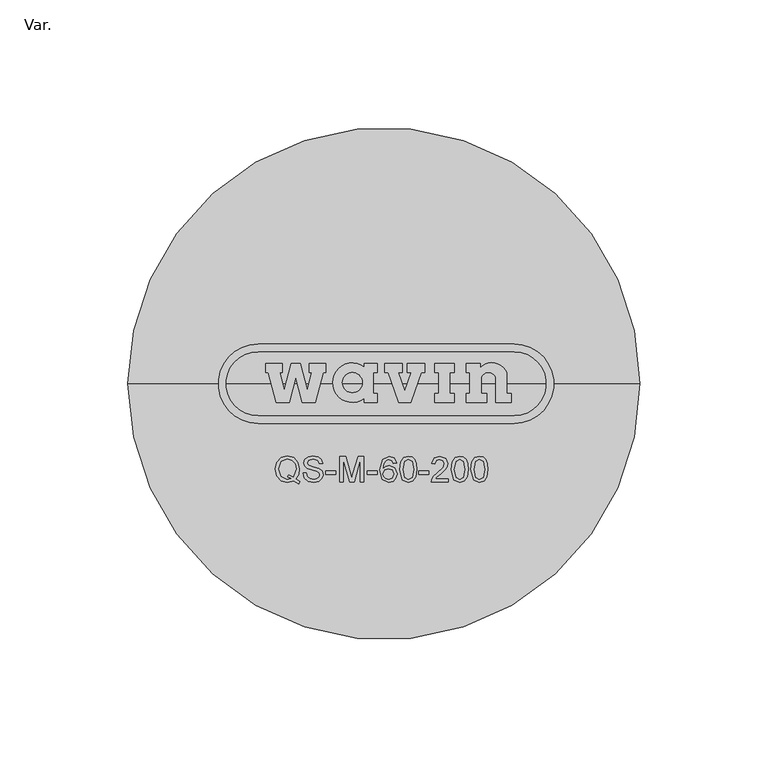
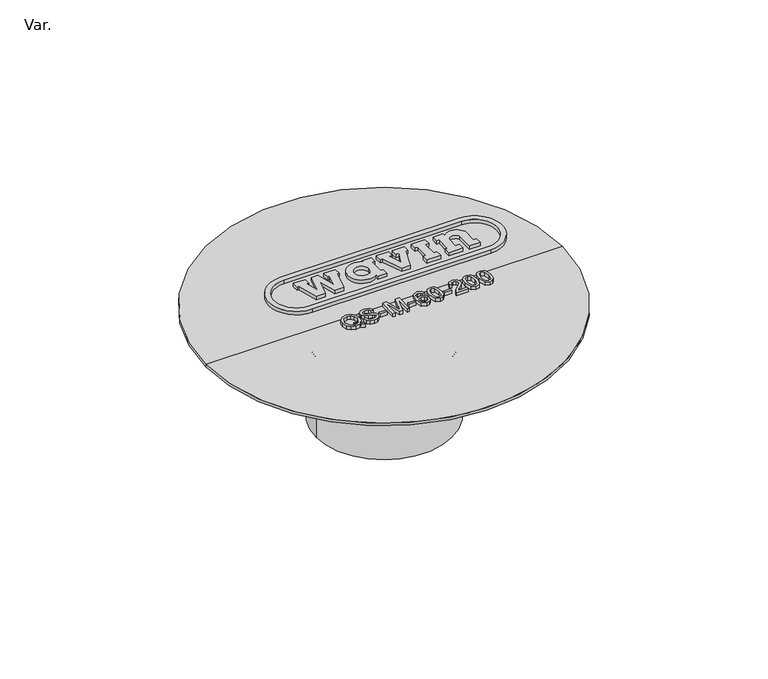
"""IFC4 building model written with IfcOpenShell, lengths in millimetres: sanitary terminal geometry, AmancoWavin_AquipamentosHidráulicos_QSBocaldeCaptação : Var.."""

from ifc_helpers import new_model, si_unit, point, frame, frame_2d, origin, place, context, project, spatial, polyline, circle_curve, ellipse_curve, trimmed, segment, composite_curve, outline, extrude, source, transform, mapped, element, save
from ifc_brep_helpers import plane_surface, cylinder_surface, revolved_surface, advanced_brep


def var_4e62a48e(model_context):
    return source(origin(), model_context, "Body", "SolidModel", [
        extrude(outline(composite_curve([segment(trimmed(circle_curve(frame_2d((50.8526232, 0.0)), 15.4893844), [point((50.8526232, 15.4893844))], [point((50.8526232, -15.4893844))], False, "CARTESIAN"), True, "CONTINUOUS"), segment(polyline([(50.8526232, -15.4893844), (-49.1473768, -15.4893844)]), True, "CONTINUOUS"), segment(trimmed(circle_curve(frame_2d((-49.1473768, 0.0)), 15.4893844), [point((-49.1473768, -15.4893844))], [point((-49.1473768, 15.4893844))], False, "CARTESIAN"), True, "CONTINUOUS"), segment(polyline([(-49.1473768, 15.4893844), (50.8526232, 15.4893844)]), True, "CONTINUOUS")], self_intersect=False), holes=[composite_curve([segment(polyline([(50.8526232, 12.4893844), (-49.1473768, 12.4893844)]), True, "CONTINUOUS"), segment(trimmed(circle_curve(frame_2d((-49.1473768, 0.0)), 12.4893844), [point((-49.1473768, 12.4893844))], [point((-49.1473768, -12.4893844))], True, "CARTESIAN"), True, "CONTINUOUS"), segment(polyline([(-49.1473768, -12.4893844), (50.8526232, -12.4893844)]), True, "CONTINUOUS"), segment(trimmed(circle_curve(frame_2d((50.8526232, 0.0)), 12.4893844), [point((50.8526232, -12.4893844))], [point((50.8526232, 12.4893844))], True, "CARTESIAN"), True, "CONTINUOUS")], self_intersect=False)]), frame((0.0, 0.0, 23.96875), z_axis=(0.0, 0.0, 1.0), x_axis=(1.0, 0.0, 0.0)), (0.0, 0.0, 1.0), 2.0),
        extrude(outline(polyline([(-39.7705089, 7.8291409), (-39.7705089, 4.3291409), (-40.7705089, 4.3291409), (-38.9632887, -2.4154967), (-36.2182463, 7.8291409), (-32.7477543, 7.8291409), (-30.0027119, -2.4154967), (-28.1954917, 4.3291409), (-29.1954917, 4.3291409), (-29.1954917, 7.8291409), (-22.6954917, 7.8291409), (-22.6954917, 4.3291409), (-23.6954917, 4.3291409), (-26.7948098, -7.2376719), (-31.8948098, -7.2376719), (-34.4830003, 2.4215864), (-37.0711907, -7.2376719), (-42.1711907, -7.2376719), (-45.2705089, 4.3291409), (-46.2705089, 4.3291409), (-46.2705089, 7.8291409), (-39.7705089, 7.8291409)])), frame((0.0, 0.0, 23.96875), z_axis=(0.0, 0.0, 1.0), x_axis=(1.0, 0.0, 0.0)), (0.0, 0.0, 1.0), 2.0),
        extrude(outline(composite_curve([segment(trimmed(circle_curve(frame_2d((-12.3300246, 0.4291409)), 7.7), [point((-7.6954917, -5.7199325))], [point((-7.6954917, 6.5782144))], False, "CARTESIAN"), True, "CONTINUOUS"), segment(polyline([(-7.6954917, 6.5782144), (-7.6954917, 7.8291409), (-2.6954917, 7.8291409), (-2.6954917, 4.3291409), (-4.1758448, 4.3291409), (-4.1758448, -3.7257164), (-2.6954917, -3.7257164), (-2.6954917, -7.2376719), (-7.6954917, -7.2376719), (-7.6954917, -5.7199325)]), True, "CONTINUOUS")], self_intersect=False), holes=[composite_curve([segment(trimmed(circle_curve(frame_2d((-12.3300246, 0.4291409)), 3.9), [point((-8.4300246, 0.4291409))], [point((-16.2300246, 0.4291409))], True, "CARTESIAN"), True, "CONTINUOUS"), segment(trimmed(circle_curve(frame_2d((-12.3300246, 0.4291409)), 3.9), [point((-16.2300246, 0.4291409))], [point((-8.4300246, 0.4291409))], True, "CARTESIAN"), True, "CONTINUOUS")], self_intersect=False)]), frame((0.0, 0.0, 23.96875), z_axis=(0.0, 0.0, 1.0), x_axis=(1.0, 0.0, 0.0)), (0.0, 0.0, 1.0), 2.0),
        extrude(outline(polyline([(7.1044911, 7.8291409), (7.1044911, 4.3291409), (5.4794911, 4.3291409), (8.1144667, -2.9103949), (10.7494422, 4.3291409), (9.1244422, 4.3291409), (9.1244422, 7.8291409), (15.9369422, 7.8291409), (15.9369422, 4.3291409), (14.6244422, 4.3291409), (10.4144667, -7.2376719), (5.8144667, -7.2376719), (1.6044911, 4.3291409), (0.2919911, 4.3291409), (0.2919911, 7.8291409), (7.1044911, 7.8291409)])), frame((0.0, 0.0, 23.96875), z_axis=(0.0, 0.0, 1.0), x_axis=(1.0, 0.0, 0.0)), (0.0, 0.0, 1.0), 2.0),
        extrude(outline(polyline([(27.5254827, 7.8291409), (27.5254827, 4.3291409), (25.6649059, 4.3291409), (25.6649059, -3.7257164), (27.5254827, -3.7257164), (27.5254827, -7.2376719), (19.8599065, -7.2376719), (19.8599065, -3.7257164), (21.3483679, -3.7257164), (21.3483679, 4.3291409), (19.8599065, 4.3291409), (19.8599065, 7.8291409), (27.5254827, 7.8291409)])), frame((0.0, 0.0, 23.96875), z_axis=(0.0, 0.0, 1.0), x_axis=(1.0, 0.0, 0.0)), (0.0, 0.0, 1.0), 2.0),
        extrude(outline(composite_curve([segment(polyline([(32.2129827, 4.3291409), (32.2129827, 7.8291409), (37.5254827, 7.8291409), (37.5254827, 6.1216703)]), True, "CONTINUOUS"), segment(trimmed(circle_curve(frame_2d((42.1947832, 1.9648863)), 6.2514974), [point((37.5254827, 6.1216703))], [point((47.981969, 4.3291409))], False, "CARTESIAN"), True, "CONTINUOUS"), segment(polyline([(47.981969, 4.3291409), (47.981969, -3.7257164), (49.7436066, -3.7257164), (49.7436066, -7.2376719), (43.6757439, -7.2376719), (43.6757439, 2.455043)]), True, "CONTINUOUS"), segment(trimmed(circle_curve(frame_2d((40.8074114, 1.2445059)), 3.1133152), [point((43.6757439, 2.455043))], [point((37.9390789, 2.455043))], True, "CARTESIAN"), True, "CONTINUOUS"), segment(polyline([(37.9390789, 2.455043), (37.9390789, -3.7257164), (40.0652776, -3.7257164), (40.0652776, -7.2376719), (32.2129827, -7.2376719), (32.2129827, -3.7257164), (33.4254827, -3.7257164), (33.4254827, 4.3291409), (32.2129827, 4.3291409)]), True, "CONTINUOUS")], self_intersect=False)), frame((0.0, 0.0, 23.96875), z_axis=(0.0, 0.0, 1.0), x_axis=(1.0, 0.0, 0.0)), (0.0, 0.0, 1.0), 2.0),
        advanced_brep(
        [(-100.0, 0.0, 0.0), (100.0, 0.0, 0.0), (0.0, 0.0, 0.0), (-100.0, 0.0, 1.5), (100.0, 0.0, 1.5), (0.0, 0.0, 1.5)],
        [
            (0, 1, circle_curve(frame((0.0, 0.0, 0.0), z_axis=(0.0, 0.0, -1.0), x_axis=(1.0, 0.0, 0.0)), 100.0)),
            (1, 2),
            (2, 0),
            (1, 0, circle_curve(frame((0.0, 0.0, 0.0), z_axis=(0.0, 0.0, -1.0), x_axis=(1.0, 0.0, 0.0)), 100.0)),
            (3, 4, circle_curve(frame((0.0, 0.0, 1.5), z_axis=(0.0, 0.0, -1.0), x_axis=(1.0, 0.0, 0.0)), 100.0)),
            (4, 1),
            (0, 3),
            (4, 3, circle_curve(frame((0.0, 0.0, 1.5), z_axis=(0.0, 0.0, -1.0), x_axis=(1.0, 0.0, 0.0)), 100.0)),
            (5, 4),
            (3, 5),
        ],
        [
            plane_surface(frame((0.0, 0.0, 0.0), z_axis=(0.0, 0.0, -1.0), x_axis=(1.0, 0.0, 0.0))),
            cylinder_surface(frame((0.0, 0.0, -5.0000199), z_axis=(0.0, 0.0, 1.0), x_axis=(1.0, 0.0, 0.0)), 100.0),
            plane_surface(frame((0.0, 0.0, 1.5), z_axis=(0.0, 0.0, 1.0), x_axis=(1.0, 0.0, 0.0))),
        ],
        [
            (0, [[1, 2, 3]]),
            (0, [[4, -3, -2]]),
            (1, [[5, 6, -1, 7]]),
            (1, [[8, -7, -4, -6]]),
            (2, [[9, -5, 10]]),
            (2, [[-10, -8, -9]]),
        ],
    ),
        advanced_brep(
        [(36.1500013, 0.0, -61.0), (-36.1500013, 0.0, -61.0), (-38.1500013, 0.0, -63.2980538), (38.1500013, 0.0, -63.2980538), (0.0, 0.0, -61.0), (62.9019224, 0.0, 0.4999995), (-62.9019224, 0.0, 0.4999995), (0.0, 0.0, 0.4999995), (43.4999988, 0.0, -10.7017063), (-43.4999988, 0.0, -10.7017063), (35.9999985, 0.0, -23.692088), (-35.9999985, 0.0, -23.692088), (35.9999985, 0.0, -26.0000021), (-35.9999985, 0.0, -26.0000021), (38.1500013, 0.0, -26.0000021), (-38.1500013, 0.0, -26.0000021), (38.1500013, 0.0, -27.5000014), (-38.1500013, 0.0, -27.5000014), (39.9999991, 0.0, -27.5000014), (-39.9999991, 0.0, -27.5000014), (39.9999991, 0.0, -36.0), (-39.9999991, 0.0, -36.0), (38.1500013, 0.0, -36.0), (-38.1500013, 0.0, -36.0)],
        [
            (0, 1, circle_curve(frame((0.0, 0.0, -61.0), z_axis=(0.0, 0.0, 1.0), x_axis=(-1.0, 0.0, 0.0)), 36.1500013)),
            (1, 2),
            (2, 3, circle_curve(frame((0.0, 0.0, -63.2980538), z_axis=(0.0, 0.0, -1.0), x_axis=(-1.0, 0.0, 0.0)), 38.1500013)),
            (3, 0),
            (1, 0, circle_curve(frame((0.0, 0.0, -61.0), z_axis=(0.0, 0.0, 1.0), x_axis=(-1.0, 0.0, 0.0)), 36.1500013)),
            (3, 2, circle_curve(frame((0.0, 0.0, -63.2980538), z_axis=(0.0, 0.0, -1.0), x_axis=(-1.0, 0.0, 0.0)), 38.1500013)),
            (4, 1),
            (0, 4),
            (5, 6, circle_curve(frame((0.0, 0.0, 0.4999995), z_axis=(0.0, 0.0, 1.0), x_axis=(-1.0, 0.0, 0.0)), 62.9019224)),
            (6, 7),
            (7, 5),
            (6, 5, circle_curve(frame((0.0, 0.0, 0.4999995), z_axis=(0.0, 0.0, 1.0), x_axis=(-1.0, 0.0, 0.0)), 62.9019224)),
            (8, 9, circle_curve(frame((0.0, 0.0, -10.7017063), z_axis=(0.0, 0.0, 1.0), x_axis=(-1.0, 0.0, 0.0)), 43.4999988)),
            (9, 6),
            (5, 8),
            (9, 8, circle_curve(frame((0.0, 0.0, -10.7017063), z_axis=(0.0, 0.0, 1.0), x_axis=(-1.0, 0.0, 0.0)), 43.4999988)),
            (10, 11, circle_curve(frame((0.0, 0.0, -23.692088), z_axis=(0.0, 0.0, 1.0), x_axis=(-1.0, 0.0, 0.0)), 35.9999985)),
            (11, 9, circle_curve(frame((-50.9999992, 0.0, -23.692088), z_axis=(0.0, -1.0, 0.0), x_axis=(1.0, 0.0, 0.0)), 15.0000007)),
            (8, 10, circle_curve(frame((50.9999992, 0.0, -23.692088), z_axis=(0.0, -1.0, 0.0), x_axis=(-1.0, 0.0, 0.0)), 15.0000007)),
            (11, 10, circle_curve(frame((0.0, 0.0, -23.692088), z_axis=(0.0, 0.0, 1.0), x_axis=(-1.0, 0.0, 0.0)), 35.9999985)),
            (12, 13, circle_curve(frame((0.0, 0.0, -26.0000021), z_axis=(0.0, 0.0, 1.0), x_axis=(-1.0, 0.0, 0.0)), 35.9999985)),
            (13, 11),
            (10, 12),
            (13, 12, circle_curve(frame((0.0, 0.0, -26.0000021), z_axis=(0.0, 0.0, 1.0), x_axis=(-1.0, 0.0, 0.0)), 35.9999985)),
            (14, 15, circle_curve(frame((0.0, 0.0, -26.0000021), z_axis=(0.0, 0.0, 1.0), x_axis=(-1.0, 0.0, 0.0)), 38.1500013)),
            (15, 13),
            (12, 14),
            (15, 14, circle_curve(frame((0.0, 0.0, -26.0000021), z_axis=(0.0, 0.0, 1.0), x_axis=(-1.0, 0.0, 0.0)), 38.1500013)),
            (16, 17, circle_curve(frame((0.0, 0.0, -27.5000014), z_axis=(0.0, 0.0, 1.0), x_axis=(-1.0, 0.0, 0.0)), 38.1500013)),
            (17, 15),
            (14, 16),
            (17, 16, circle_curve(frame((0.0, 0.0, -27.5000014), z_axis=(0.0, 0.0, 1.0), x_axis=(-1.0, 0.0, 0.0)), 38.1500013)),
            (18, 19, circle_curve(frame((0.0, 0.0, -27.5000014), z_axis=(0.0, 0.0, 1.0), x_axis=(-1.0, 0.0, 0.0)), 39.9999991)),
            (19, 17),
            (16, 18),
            (19, 18, circle_curve(frame((0.0, 0.0, -27.5000014), z_axis=(0.0, 0.0, 1.0), x_axis=(-1.0, 0.0, 0.0)), 39.9999991)),
            (20, 21, circle_curve(frame((0.0, 0.0, -36.0), z_axis=(0.0, 0.0, 1.0), x_axis=(-1.0, 0.0, 0.0)), 39.9999991)),
            (21, 19),
            (18, 20),
            (21, 20, circle_curve(frame((0.0, 0.0, -36.0), z_axis=(0.0, 0.0, 1.0), x_axis=(-1.0, 0.0, 0.0)), 39.9999991)),
            (22, 23, circle_curve(frame((0.0, 0.0, -36.0), z_axis=(0.0, 0.0, 1.0), x_axis=(-1.0, 0.0, 0.0)), 38.1500013)),
            (23, 21),
            (20, 22),
            (23, 22, circle_curve(frame((0.0, 0.0, -36.0), z_axis=(0.0, 0.0, 1.0), x_axis=(-1.0, 0.0, 0.0)), 38.1500013)),
            (2, 23),
            (22, 3),
        ],
        [
            revolved_surface(polyline([(-38.1500013, 0.0, -63.2980538), (-36.1500013, 0.0, -61.0)]), (0.0, 0.0, -61.0000003), (0.0, 0.0, -1.0)),
            plane_surface(frame((0.0, 0.0, -61.0), z_axis=(0.0, 0.0, -1.0), x_axis=(-1.0, 0.0, 0.0))),
            plane_surface(frame((0.0, 0.0, 0.4999995), z_axis=(0.0, 0.0, 1.0), x_axis=(-1.0, 0.0, 0.0))),
            revolved_surface(polyline([(-62.9019224, 0.0, 0.4999995), (-43.4999988, 0.0, -10.7017063)]), (0.0, 0.0, -61.0000003), (0.0, 0.0, -1.0)),
            revolved_surface(trimmed(ellipse_curve(frame((-50.9999992, 0.0, -23.692088), z_axis=(0.0, 1.0, 0.0), x_axis=(1.0, 0.0, 0.0)), 15.0000007, 15.0000007), [point((-43.4999988, 0.0, -10.7017063))], [point((-35.9999985, 0.0, -23.692088))], True, "CARTESIAN"), (0.0, 0.0, -61.0000003), (0.0, 0.0, -1.0)),
            cylinder_surface(frame((0.0, 0.0, -61.0000003), z_axis=(0.0, 0.0, -1.0), x_axis=(-1.0, 0.0, 0.0)), 35.9999985),
            plane_surface(frame((0.0, 0.0, -26.0000021), z_axis=(0.0, 0.0, 1.0), x_axis=(-1.0, 0.0, 0.0))),
            cylinder_surface(frame((0.0, 0.0, -61.0000003), z_axis=(0.0, 0.0, -1.0), x_axis=(-1.0, 0.0, 0.0)), 38.1500013),
            plane_surface(frame((0.0, 0.0, -27.5000014), z_axis=(0.0, 0.0, 1.0), x_axis=(-1.0, 0.0, 0.0))),
            cylinder_surface(frame((0.0, 0.0, -61.0000003), z_axis=(0.0, 0.0, -1.0), x_axis=(-1.0, 0.0, 0.0)), 39.9999991),
            plane_surface(frame((0.0, 0.0, -36.0), z_axis=(0.0, 0.0, -1.0), x_axis=(-1.0, 0.0, 0.0))),
        ],
        [
            (0, [[1, 2, 3, 4]]),
            (0, [[5, -4, 6, -2]]),
            (1, [[7, -1, 8]]),
            (1, [[-8, -5, -7]]),
            (2, [[9, 10, 11]]),
            (2, [[12, -11, -10]]),
            (3, [[13, 14, -9, 15]]),
            (3, [[16, -15, -12, -14]]),
            (4, [[17, 18, -13, 19]]),
            (4, [[20, -19, -16, -18]]),
            (5, [[21, 22, -17, 23]]),
            (5, [[24, -23, -20, -22]]),
            (6, [[25, 26, -21, 27]]),
            (6, [[28, -27, -24, -26]]),
            (7, [[29, 30, -25, 31]]),
            (7, [[32, -31, -28, -30]]),
            (8, [[33, 34, -29, 35]]),
            (8, [[36, -35, -32, -34]]),
            (9, [[37, 38, -33, 39]]),
            (9, [[40, -39, -36, -38]]),
            (10, [[41, 42, -37, 43]]),
            (10, [[44, -43, -40, -42]]),
            (7, [[-3, 45, -41, 46]]),
            (7, [[-6, -46, -44, -45]]),
        ],
    ),
        extrude(outline(polyline([(-34.4411637, -37.2095962), (-32.8837966, -38.2568336), (-33.222248, -39.1765386), (-35.2897448, -38.0017687), (-37.7300287, -38.5707596), (-40.1752177, -37.9147033), (-41.8662486, -36.0703883), (-42.4585386, -33.3934336), (-41.8674749, -30.6968586), (-40.1850279, -28.8464122), (-37.7422915, -28.2112026), (-35.2836135, -28.8611274), (-33.6146555, -30.680917), (-33.0407596, -33.3198572), (-33.3890212, -35.5148865), (-34.4411637, -37.2095962)]), holes=[polyline([(-37.3842197, -35.5394119), (-35.4761384, -36.4934526), (-34.2964634, -33.3836234), (-34.7133964, -31.322258), (-35.9335383, -29.953737), (-37.7349338, -29.4669065), (-40.216911, -30.4516039), (-41.2028348, -33.3909811), (-40.2279475, -36.3009277), (-37.7373864, -37.3150557), (-36.3860332, -37.0575383), (-37.7079558, -36.5008102), (-37.3842197, -35.5394119)])]), frame((0.0, 0.0, 23.96875), z_axis=(0.0, 0.0, 1.0), x_axis=(1.0, 0.0, 0.0)), (0.0, 0.0, 1.0), 2.0),
        extrude(outline(polyline([(-31.6280927, -34.9606109), (-30.3723888, -34.9606109), (-29.9677186, -36.2175411), (-28.9793423, -37.0121662), (-27.4734787, -37.3150557), (-26.1613663, -37.0857426), (-25.3140114, -36.4554381), (-25.0356474, -35.6129883), (-25.2441138, -34.8293997), (-26.0976, -34.2591826), (-27.9259736, -33.7797097), (-29.8941422, -33.1604417), (-30.9622263, -32.2260214), (-31.3141667, -30.9776752), (-30.8788397, -29.5564244), (-29.6071943, -28.5533328), (-27.7457114, -28.2112026), (-25.7591486, -28.5692744), (-24.4347734, -29.6214169), (-23.9369065, -31.1934993), (-25.1926103, -31.1934993), (-25.9038489, -29.9034598), (-27.6966605, -29.4669065), (-29.4943771, -29.8985547), (-30.0584629, -30.940887), (-29.6586978, -31.811541), (-27.6083688, -32.5129694), (-25.3863615, -33.1432739), (-24.1711247, -34.1610807), (-23.7799435, -35.5811052), (-24.2299858, -37.08329), (-25.5249304, -38.1795784), (-27.4244278, -38.5707596), (-29.6672817, -38.1489215), (-31.0860799, -36.8785024), (-31.6280927, -34.9606109)])), frame((0.0, 0.0, 23.96875), z_axis=(0.0, 0.0, 1.0), x_axis=(1.0, 0.0, 0.0)), (0.0, 0.0, 1.0), 2.0),
        extrude(outline(polyline([(-22.6812026, -35.4314999), (-22.6812026, -34.175796), (-18.757128, -34.175796), (-18.757128, -35.4314999), (-22.6812026, -35.4314999)])), frame((0.0, 0.0, 23.96875), z_axis=(0.0, 0.0, 1.0), x_axis=(1.0, 0.0, 0.0)), (0.0, 0.0, 1.0), 2.0),
        extrude(outline(polyline([(-17.1874981, -38.4137966), (-17.1874981, -28.3681656), (-15.0268045, -28.3681656), (-12.9715705, -35.4486677), (-12.5570901, -36.9275533), (-12.108274, -35.3260404), (-10.0873756, -28.3681656), (-7.926682, -28.3681656), (-7.926682, -38.4137966), (-9.1823859, -38.4137966), (-9.1823859, -29.6238694), (-11.7060564, -38.4137966), (-13.4081238, -38.4137966), (-15.9317942, -29.6238694), (-15.9317942, -38.4137966), (-17.1874981, -38.4137966)])), frame((0.0, 0.0, 23.96875), z_axis=(0.0, 0.0, 1.0), x_axis=(1.0, 0.0, 0.0)), (0.0, 0.0, 1.0), 2.0),
        extrude(outline(polyline([(-6.5140152, -35.4314999), (-6.5140152, -34.175796), (-2.5899406, -34.175796), (-2.5899406, -35.4314999), (-6.5140152, -35.4314999)])), frame((0.0, 0.0, 23.96875), z_axis=(0.0, 0.0, 1.0), x_axis=(1.0, 0.0, 0.0)), (0.0, 0.0, 1.0), 2.0),
        extrude(outline(polyline([(4.9442827, -31.0365363), (3.6885788, -31.1934993), (3.2127848, -30.1462619), (1.9546284, -29.6238694), (0.8215518, -29.9279852), (-0.0356132, -31.0696457), (-0.3924588, -33.3075945), (0.714866, -32.3057292), (2.0870659, -31.9783142), (4.2207814, -32.8734937), (5.1012457, -35.1862452), (4.6867653, -36.9189694), (3.5463311, -38.1452427), (1.9006723, -38.5707596), (-0.6585601, -37.4425881), (-1.6481626, -33.7245274), (-0.5494218, -29.5135048), (2.0331099, -28.3681656), (4.0172201, -29.0769515), (4.9442827, -31.0365363)]), holes=[polyline([(-0.3924588, -35.1666248), (-0.101832, -36.2543293), (0.6707202, -37.0440493), (1.8025705, -37.3150557), (3.2826824, -36.7534225), (3.8455418, -35.2279385), (3.29004, -33.767447), (1.751067, -33.2340181), (0.2317143, -33.767447), (-0.3924588, -35.1666248)])]), frame((0.0, 0.0, 23.96875), z_axis=(0.0, 0.0, 1.0), x_axis=(1.0, 0.0, 0.0)), (0.0, 0.0, 1.0), 2.0),
        extrude(outline(polyline([(6.1999866, -33.4719151), (6.5690949, -30.5815889), (7.6653832, -28.9150835), (9.4962093, -28.3681656), (10.9628321, -28.6919017), (11.9757339, -29.6250957), (12.5643451, -31.111339), (12.7924319, -33.4719151), (12.4270025, -36.3499786), (11.334393, -38.0201628), (9.4962093, -38.5707596), (7.2006256, -37.6142664), (6.1999866, -33.4719151)]), holes=[polyline([(7.4556905, -33.4694626), (8.0443017, -36.5878756), (9.4962093, -37.3150557), (10.9481169, -36.5854231), (11.5367281, -33.4694626), (10.9677372, -30.3866114), (9.481494, -29.6238694), (8.063922, -30.2958672), (7.4556905, -33.4694626)])]), frame((0.0, 0.0, 23.96875), z_axis=(0.0, 0.0, 1.0), x_axis=(1.0, 0.0, 0.0)), (0.0, 0.0, 1.0), 2.0),
        extrude(outline(polyline([(13.5772469, -35.4314999), (13.5772469, -34.175796), (17.5013215, -34.175796), (17.5013215, -35.4314999), (13.5772469, -35.4314999)])), frame((0.0, 0.0, 23.96875), z_axis=(0.0, 0.0, 1.0), x_axis=(1.0, 0.0, 0.0)), (0.0, 0.0, 1.0), 2.0),
        extrude(outline(polyline([(25.0355447, -37.1580927), (25.0355447, -38.4137966), (18.4430994, -38.4137966), (18.5779894, -37.5480476), (19.3407315, -36.2150885), (20.9128138, -34.7595021), (23.0808651, -32.6674798), (23.6228779, -31.2450028), (23.1115219, -30.0935321), (21.7761103, -29.6238694), (20.38429, -30.0824957), (19.8557662, -31.3504623), (18.6000624, -31.1934993), (19.5626869, -29.0916668), (21.8030883, -28.3681656), (24.0508473, -29.1726009), (24.8785818, -31.1689738), (24.6554, -32.3596852), (23.9135047, -33.5908636), (22.1145617, -35.3113251), (20.6700117, -36.5192043), (20.1034735, -37.1580927), (25.0355447, -37.1580927)])), frame((0.0, 0.0, 23.96875), z_axis=(0.0, 0.0, 1.0), x_axis=(1.0, 0.0, 0.0)), (0.0, 0.0, 1.0), 2.0),
        extrude(outline(polyline([(26.2912486, -33.4719151), (26.6603569, -30.5815889), (27.7566452, -28.9150835), (29.5874713, -28.3681656), (31.0540942, -28.6919017), (32.0669959, -29.6250957), (32.6556071, -31.111339), (32.883694, -33.4719151), (32.5182645, -36.3499786), (31.425655, -38.0201628), (29.5874713, -38.5707596), (27.2918876, -37.6142664), (26.2912486, -33.4719151)]), holes=[polyline([(27.5469525, -33.4694626), (28.1355637, -36.5878756), (29.5874713, -37.3150557), (31.0393789, -36.5854231), (31.6279901, -33.4694626), (31.0589993, -30.3866114), (29.572756, -29.6238694), (28.1551841, -30.2958672), (27.5469525, -33.4694626)])]), frame((0.0, 0.0, 23.96875), z_axis=(0.0, 0.0, 1.0), x_axis=(1.0, 0.0, 0.0)), (0.0, 0.0, 1.0), 2.0),
        extrude(outline(polyline([(33.9824349, -33.4719151), (34.3515431, -30.5815889), (35.4478315, -28.9150835), (37.2786575, -28.3681656), (38.7452804, -28.6919017), (39.7581822, -29.6250957), (40.3467934, -31.111339), (40.5748802, -33.4719151), (40.2094508, -36.3499786), (39.1168412, -38.0201628), (37.2786575, -38.5707596), (34.9830739, -37.6142664), (33.9824349, -33.4719151)]), holes=[polyline([(35.2381387, -33.4694626), (35.8267499, -36.5878756), (37.2786575, -37.3150557), (38.7305651, -36.5854231), (39.3191763, -33.4694626), (38.7501855, -30.3866114), (37.2639423, -29.6238694), (35.8463703, -30.2958672), (35.2381387, -33.4694626)])]), frame((0.0, 0.0, 23.96875), z_axis=(0.0, 0.0, 1.0), x_axis=(1.0, 0.0, 0.0)), (0.0, 0.0, 1.0), 2.0),
    ])


if __name__ == "__main__":
    model = new_model("IFC4")
    model_context = context("Model", 3, world=origin())
    ifc_project = project(units=[si_unit("LENGTHUNIT", "METRE", prefix="MILLI")], contexts=[model_context])
    site = spatial("IfcSite", under=ifc_project)
    building = spatial("IfcBuilding", under=site)
    placement = place(None, origin())
    var_shape = var_4e62a48e(model_context)
    element("IfcSanitaryTerminal", 1, ObjectType="AmancoWavin_AquipamentosHidráulicos_QSBocaldeCaptação : Var.", at=placement, inside=building, context=model_context, shape_type="MappedRepresentation", body=[
        mapped(var_shape, transform((0.0, 0.0, 0.0), x_axis=(1.0, 0.0, 0.0), y_axis=(0.0, 1.0, 0.0), z_axis=(0.0, 0.0, 1.0))),
    ])
    save(model, "model.ifc")
